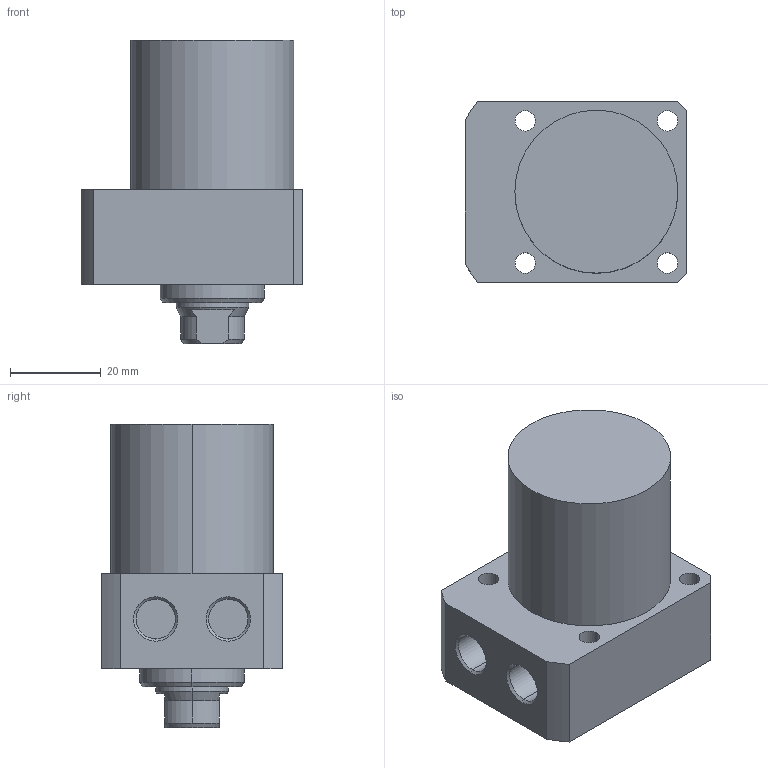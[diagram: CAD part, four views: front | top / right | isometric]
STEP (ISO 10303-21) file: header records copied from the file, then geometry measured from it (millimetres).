
FILE_DESCRIPTION (( 'STEP AP203' ), '1' );
FILE_NAME ('CLLR-036CA-025.STEP', '2019-12-20T00:29:35', ( '' ), ( '' ), 'SwSTEP 2.0', 'SolidWorks 2015', '' );
FILE_SCHEMA (( 'CONFIG_CONTROL_DESIGN' ));
Length unit declared in the file: millimetre
Products named in the file (1): CLLR-036CA-025
Bounding box: 49 x 40 x 67 mm (x, y, z)
Volume: 74293.5 mm3; surface area: 13812 mm2
Topology: 1 solids, 1 shells, 63 faces, 149 edges, 94 vertices
Faces by surface type: cylinder 29, plane 19, cone 15
Entity records: 1927 total; most frequent: DIRECTION 340, CARTESIAN_POINT 337, ORIENTED_EDGE 294, EDGE_CURVE 147, AXIS2_PLACEMENT_3D 137, VERTEX_POINT 94, EDGE_LOOP 79, CIRCLE 73
